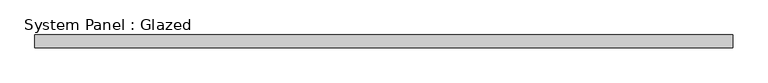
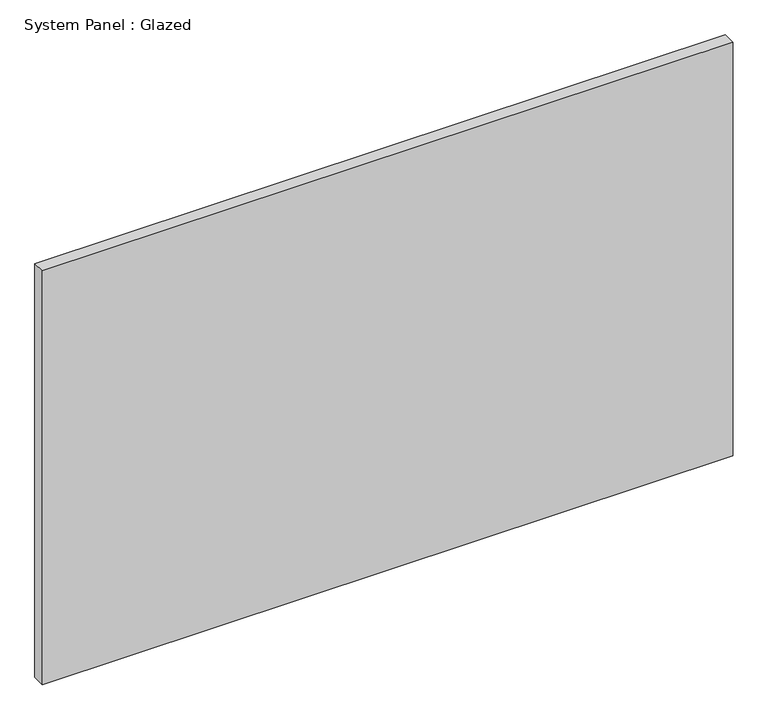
"""IFC4 building model written with IfcOpenShell, lengths in millimetres: plate geometry, System Panel : Glazed."""

from ifc_helpers import new_model, si_unit, origin, origin_with_axes, place, context, project, spatial, polyline, outline, extrude, source, transform, mapped, element, save


def system_panel_glazed_a04ada38(model_context):
    return source(origin(), model_context, "Body", "SweptSolid", [
        extrude(outline(polyline([(688.5886914, 19.05), (-688.5886914, 19.05), (-688.5886914, 44.45), (688.5886914, 44.45), (688.5886914, 19.05)])), origin_with_axes(), (0.0, 0.0, 1.0), 871.864222),
    ])


if __name__ == "__main__":
    model = new_model("IFC4")
    model_context = context("Model", 3, world=origin())
    ifc_project = project(units=[si_unit("LENGTHUNIT", "METRE", prefix="MILLI")], contexts=[model_context])
    site = spatial("IfcSite", under=ifc_project)
    building = spatial("IfcBuilding", under=site)
    placement = place(None, origin())
    system_panel_glazed_shape = system_panel_glazed_a04ada38(model_context)
    element("IfcPlate", 1, ObjectType="System Panel : Glazed", at=placement, inside=building, context=model_context, shape_type="MappedRepresentation", body=[
        mapped(system_panel_glazed_shape, transform((0.0, 0.0, 0.0), x_axis=(1.0, 0.0, 0.0), y_axis=(0.0, 1.0, 0.0), z_axis=(0.0, 0.0, 1.0))),
    ])
    save(model, "model.ifc")
